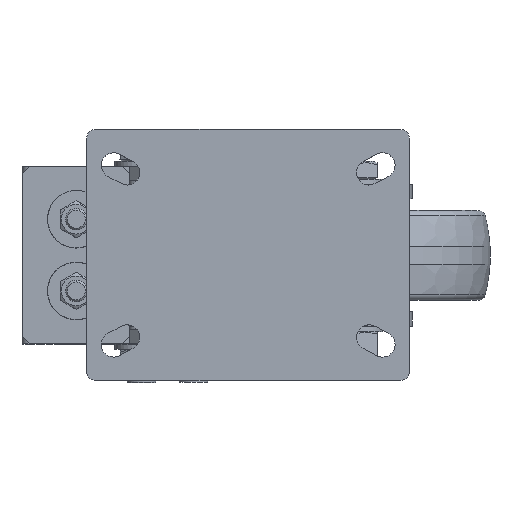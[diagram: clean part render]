
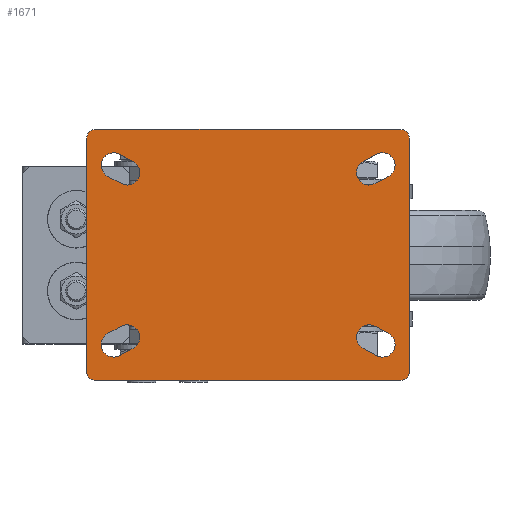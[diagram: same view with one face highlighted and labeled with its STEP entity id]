
A CAD part, top view. The second image highlights one B-rep face of the part: STEP entity #1671.
In plain terms, the highlighted planar face has unit normal (0, 0, 1).
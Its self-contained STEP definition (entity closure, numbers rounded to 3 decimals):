
#803=FACE_BOUND('',#3197,.T.);
#804=FACE_BOUND('',#3198,.T.);
#805=FACE_BOUND('',#3199,.T.);
#806=FACE_BOUND('',#3200,.T.);
#807=FACE_BOUND('',#3201,.T.);
#1126=CIRCLE('',#10116,5.);
#1128=CIRCLE('',#10119,5.);
#1130=CIRCLE('',#10122,5.);
#1132=CIRCLE('',#10125,5.);
#1133=CIRCLE('',#10127,7.);
#1134=CIRCLE('',#10128,7.);
#1135=CIRCLE('',#10129,7.);
#1136=CIRCLE('',#10130,7.);
#1137=CIRCLE('',#10131,7.);
#1138=CIRCLE('',#10132,7.);
#1139=CIRCLE('',#10133,7.);
#1140=CIRCLE('',#10134,7.);
#1671=ADVANCED_FACE('',(#803,#804,#805,#806,#807),#2090,.T.);
#2090=PLANE('',#10135);
#3197=EDGE_LOOP('',(#5409,#5410,#5411,#5412,#5413,#5414,#5415,#5416));
#3198=EDGE_LOOP('',(#5417,#5418,#5419,#5420));
#3199=EDGE_LOOP('',(#5421,#5422,#5423,#5424));
#3200=EDGE_LOOP('',(#5425,#5426,#5427,#5428));
#3201=EDGE_LOOP('',(#5429,#5430,#5431,#5432));
#5409=ORIENTED_EDGE('',*,*,#7973,.T.);
#5410=ORIENTED_EDGE('',*,*,#7971,.T.);
#5411=ORIENTED_EDGE('',*,*,#7974,.T.);
#5412=ORIENTED_EDGE('',*,*,#7967,.T.);
#5413=ORIENTED_EDGE('',*,*,#7975,.T.);
#5414=ORIENTED_EDGE('',*,*,#7959,.T.);
#5415=ORIENTED_EDGE('',*,*,#7976,.T.);
#5416=ORIENTED_EDGE('',*,*,#7963,.T.);
#5417=ORIENTED_EDGE('',*,*,#7977,.F.);
#5418=ORIENTED_EDGE('',*,*,#7978,.F.);
#5419=ORIENTED_EDGE('',*,*,#7979,.F.);
#5420=ORIENTED_EDGE('',*,*,#7980,.F.);
#5421=ORIENTED_EDGE('',*,*,#7981,.T.);
#5422=ORIENTED_EDGE('',*,*,#7982,.T.);
#5423=ORIENTED_EDGE('',*,*,#7983,.T.);
#5424=ORIENTED_EDGE('',*,*,#7984,.T.);
#5425=ORIENTED_EDGE('',*,*,#7985,.T.);
#5426=ORIENTED_EDGE('',*,*,#7986,.T.);
#5427=ORIENTED_EDGE('',*,*,#7987,.T.);
#5428=ORIENTED_EDGE('',*,*,#7988,.T.);
#5429=ORIENTED_EDGE('',*,*,#7989,.F.);
#5430=ORIENTED_EDGE('',*,*,#7990,.F.);
#5431=ORIENTED_EDGE('',*,*,#7991,.F.);
#5432=ORIENTED_EDGE('',*,*,#7992,.F.);
#6713=VERTEX_POINT('',#22572);
#6714=VERTEX_POINT('',#22574);
#6717=VERTEX_POINT('',#22581);
#6718=VERTEX_POINT('',#22583);
#6721=VERTEX_POINT('',#22590);
#6722=VERTEX_POINT('',#22592);
#6725=VERTEX_POINT('',#22599);
#6726=VERTEX_POINT('',#22601);
#6727=VERTEX_POINT('',#22609);
#6728=VERTEX_POINT('',#22610);
#6729=VERTEX_POINT('',#22612);
#6730=VERTEX_POINT('',#22614);
#6731=VERTEX_POINT('',#22617);
#6732=VERTEX_POINT('',#22618);
#6733=VERTEX_POINT('',#22620);
#6734=VERTEX_POINT('',#22622);
#6735=VERTEX_POINT('',#22625);
#6736=VERTEX_POINT('',#22626);
#6737=VERTEX_POINT('',#22628);
#6738=VERTEX_POINT('',#22630);
#6739=VERTEX_POINT('',#22633);
#6740=VERTEX_POINT('',#22634);
#6741=VERTEX_POINT('',#22636);
#6742=VERTEX_POINT('',#22638);
#7959=EDGE_CURVE('',#6714,#6713,#1126,.T.);
#7963=EDGE_CURVE('',#6718,#6717,#1128,.T.);
#7967=EDGE_CURVE('',#6722,#6721,#1130,.T.);
#7971=EDGE_CURVE('',#6726,#6725,#1132,.T.);
#7973=EDGE_CURVE('',#6717,#6726,#8654,.T.);
#7974=EDGE_CURVE('',#6725,#6722,#8655,.T.);
#7975=EDGE_CURVE('',#6721,#6714,#8656,.T.);
#7976=EDGE_CURVE('',#6713,#6718,#8657,.T.);
#7977=EDGE_CURVE('',#6727,#6728,#1133,.T.);
#7978=EDGE_CURVE('',#6729,#6727,#8658,.T.);
#7979=EDGE_CURVE('',#6730,#6729,#1134,.T.);
#7980=EDGE_CURVE('',#6728,#6730,#8659,.T.);
#7981=EDGE_CURVE('',#6731,#6732,#1135,.T.);
#7982=EDGE_CURVE('',#6732,#6733,#8660,.T.);
#7983=EDGE_CURVE('',#6733,#6734,#1136,.T.);
#7984=EDGE_CURVE('',#6734,#6731,#8661,.T.);
#7985=EDGE_CURVE('',#6735,#6736,#1137,.T.);
#7986=EDGE_CURVE('',#6736,#6737,#8662,.T.);
#7987=EDGE_CURVE('',#6737,#6738,#1138,.T.);
#7988=EDGE_CURVE('',#6738,#6735,#8663,.T.);
#7989=EDGE_CURVE('',#6739,#6740,#1139,.T.);
#7990=EDGE_CURVE('',#6741,#6739,#8664,.T.);
#7991=EDGE_CURVE('',#6742,#6741,#1140,.T.);
#7992=EDGE_CURVE('',#6740,#6742,#8665,.T.);
#8654=LINE('',#22604,#9284);
#8655=LINE('',#22605,#9285);
#8656=LINE('',#22606,#9286);
#8657=LINE('',#22607,#9287);
#8658=LINE('',#22611,#9288);
#8659=LINE('',#22615,#9289);
#8660=LINE('',#22619,#9290);
#8661=LINE('',#22623,#9291);
#8662=LINE('',#22627,#9292);
#8663=LINE('',#22631,#9293);
#8664=LINE('',#22635,#9294);
#8665=LINE('',#22639,#9295);
#9284=VECTOR('',#12260,1.);
#9285=VECTOR('',#12261,1.);
#9286=VECTOR('',#12262,1.);
#9287=VECTOR('',#12263,1.);
#9288=VECTOR('',#12266,1.);
#9289=VECTOR('',#12269,1.);
#9290=VECTOR('',#12272,1.);
#9291=VECTOR('',#12275,1.);
#9292=VECTOR('',#12278,1.);
#9293=VECTOR('',#12281,1.);
#9294=VECTOR('',#12284,1.);
#9295=VECTOR('',#12287,1.);
#10116=AXIS2_PLACEMENT_3D('',#22573,#12231,#12232);
#10119=AXIS2_PLACEMENT_3D('',#22582,#12239,#12240);
#10122=AXIS2_PLACEMENT_3D('',#22591,#12247,#12248);
#10125=AXIS2_PLACEMENT_3D('',#22600,#12255,#12256);
#10127=AXIS2_PLACEMENT_3D('',#22608,#12264,#12265);
#10128=AXIS2_PLACEMENT_3D('',#22613,#12267,#12268);
#10129=AXIS2_PLACEMENT_3D('',#22616,#12270,#12271);
#10130=AXIS2_PLACEMENT_3D('',#22621,#12273,#12274);
#10131=AXIS2_PLACEMENT_3D('',#22624,#12276,#12277);
#10132=AXIS2_PLACEMENT_3D('',#22629,#12279,#12280);
#10133=AXIS2_PLACEMENT_3D('',#22632,#12282,#12283);
#10134=AXIS2_PLACEMENT_3D('',#22637,#12285,#12286);
#10135=AXIS2_PLACEMENT_3D('',#22640,#12288,#12289);
#12231=DIRECTION('',(0.,0.,1.));
#12232=DIRECTION('',(-1.,0.,0.));
#12239=DIRECTION('',(0.,0.,1.));
#12240=DIRECTION('',(-1.,0.,0.));
#12247=DIRECTION('',(0.,0.,1.));
#12248=DIRECTION('',(-1.,0.,0.));
#12255=DIRECTION('',(0.,0.,1.));
#12256=DIRECTION('',(-1.,0.,0.));
#12260=DIRECTION('',(0.,-1.,0.));
#12261=DIRECTION('',(1.,0.,0.));
#12262=DIRECTION('',(0.,1.,0.));
#12263=DIRECTION('',(-1.,0.,0.));
#12264=DIRECTION('',(0.,0.,1.));
#12265=DIRECTION('',(1.,0.,0.));
#12266=DIRECTION('',(-0.882,0.471,0.));
#12267=DIRECTION('',(0.,0.,1.));
#12268=DIRECTION('',(1.,0.,0.));
#12269=DIRECTION('',(0.882,-0.471,0.));
#12270=DIRECTION('',(0.,0.,-1.));
#12271=DIRECTION('',(1.,0.,0.));
#12272=DIRECTION('',(0.882,0.471,0.));
#12273=DIRECTION('',(0.,0.,-1.));
#12274=DIRECTION('',(1.,0.,0.));
#12275=DIRECTION('',(-0.882,-0.471,0.));
#12276=DIRECTION('',(0.,0.,-1.));
#12277=DIRECTION('',(-1.,0.,0.));
#12278=DIRECTION('',(0.882,0.471,0.));
#12279=DIRECTION('',(0.,0.,-1.));
#12280=DIRECTION('',(-1.,0.,0.));
#12281=DIRECTION('',(-0.882,-0.471,0.));
#12282=DIRECTION('',(0.,0.,1.));
#12283=DIRECTION('',(-1.,0.,0.));
#12284=DIRECTION('',(-0.882,0.471,0.));
#12285=DIRECTION('',(0.,0.,1.));
#12286=DIRECTION('',(-1.,0.,0.));
#12287=DIRECTION('',(0.882,-0.471,0.));
#12288=DIRECTION('',(0.,0.,1.));
#12289=DIRECTION('',(-1.,0.,0.));
#22572=CARTESIAN_POINT('',(85.,70.,-35.362));
#22573=CARTESIAN_POINT('',(85.,65.,-35.362));
#22574=CARTESIAN_POINT('',(90.,65.,-35.362));
#22581=CARTESIAN_POINT('',(-90.,65.,-35.362));
#22582=CARTESIAN_POINT('',(-85.,65.,-35.362));
#22583=CARTESIAN_POINT('',(-85.,70.,-35.362));
#22590=CARTESIAN_POINT('',(90.,-65.,-35.362));
#22591=CARTESIAN_POINT('',(85.,-65.,-35.362));
#22592=CARTESIAN_POINT('',(85.,-70.,-35.362));
#22599=CARTESIAN_POINT('',(-85.,-70.,-35.362));
#22600=CARTESIAN_POINT('',(-85.,-65.,-35.362));
#22601=CARTESIAN_POINT('',(-90.,-65.,-35.362));
#22604=CARTESIAN_POINT('',(-90.,70.,-35.362));
#22605=CARTESIAN_POINT('',(-90.,-70.,-35.362));
#22606=CARTESIAN_POINT('',(90.,-70.,-35.362));
#22607=CARTESIAN_POINT('',(90.,70.,-35.362));
#22608=CARTESIAN_POINT('',(-75.,50.,-35.362));
#22609=CARTESIAN_POINT('',(-71.706,56.176,-35.362));
#22610=CARTESIAN_POINT('',(-78.294,43.824,-35.362));
#22611=CARTESIAN_POINT('',(-64.206,52.176,-35.362));
#22612=CARTESIAN_POINT('',(-64.206,52.176,-35.362));
#22613=CARTESIAN_POINT('',(-67.5,46.,-35.362));
#22614=CARTESIAN_POINT('',(-70.794,39.824,-35.362));
#22615=CARTESIAN_POINT('',(-78.294,43.824,-35.362));
#22616=CARTESIAN_POINT('',(-75.,-50.,-35.362));
#22617=CARTESIAN_POINT('',(-71.706,-56.176,-35.362));
#22618=CARTESIAN_POINT('',(-78.294,-43.824,-35.362));
#22619=CARTESIAN_POINT('',(-78.294,-43.824,-35.362));
#22620=CARTESIAN_POINT('',(-70.794,-39.824,-35.362));
#22621=CARTESIAN_POINT('',(-67.5,-46.,-35.362));
#22622=CARTESIAN_POINT('',(-64.206,-52.176,-35.362));
#22623=CARTESIAN_POINT('',(-64.206,-52.176,-35.362));
#22624=CARTESIAN_POINT('',(67.5,46.,-35.362));
#22625=CARTESIAN_POINT('',(70.794,39.824,-35.362));
#22626=CARTESIAN_POINT('',(64.206,52.176,-35.362));
#22627=CARTESIAN_POINT('',(64.206,52.176,-35.362));
#22628=CARTESIAN_POINT('',(71.706,56.176,-35.362));
#22629=CARTESIAN_POINT('',(75.,50.,-35.362));
#22630=CARTESIAN_POINT('',(78.294,43.824,-35.362));
#22631=CARTESIAN_POINT('',(78.294,43.824,-35.362));
#22632=CARTESIAN_POINT('',(67.5,-46.,-35.362));
#22633=CARTESIAN_POINT('',(70.794,-39.824,-35.362));
#22634=CARTESIAN_POINT('',(64.206,-52.176,-35.362));
#22635=CARTESIAN_POINT('',(78.294,-43.824,-35.362));
#22636=CARTESIAN_POINT('',(78.294,-43.824,-35.362));
#22637=CARTESIAN_POINT('',(75.,-50.,-35.362));
#22638=CARTESIAN_POINT('',(71.706,-56.176,-35.362));
#22639=CARTESIAN_POINT('',(64.206,-52.176,-35.362));
#22640=CARTESIAN_POINT('',(-75.,50.,-35.362));
